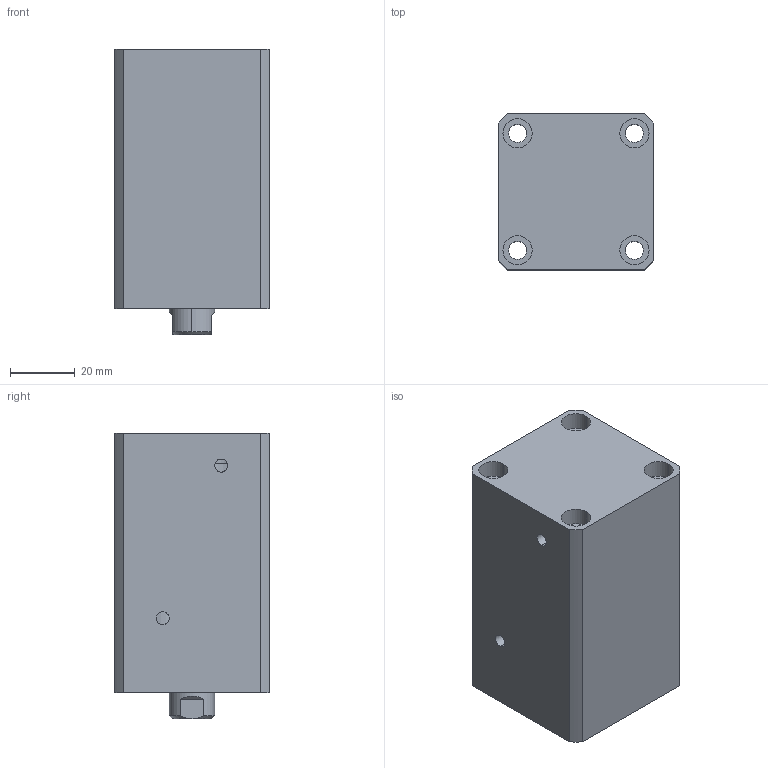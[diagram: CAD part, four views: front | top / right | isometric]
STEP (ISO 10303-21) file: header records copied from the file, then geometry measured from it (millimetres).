
FILE_DESCRIPTION (( 'STEP AP214' ), '1' );
FILE_NAME ('chtb-sdma25x35n_asm.STEP', '2018-05-22T07:05:27', ( 'Windows' ), ( 'Microsoft' ), 'SwSTEP 2.0', 'SolidWorks 2015', '' );
FILE_SCHEMA (( 'AUTOMOTIVE_DESIGN' ));
Length unit declared in the file: millimetre
Products named in the file (4): chtb-sdma25x35n_asm; CHTB-SDMA25X35NHSG; CHTB-SDMA25X35NBT; CHTB-25QG
Assembly tree (3 placements, depth 2):
  chtb-sdma25x35n_asm
    CHTB-25QG
    CHTB-SDMA25X35NBT
    CHTB-SDMA25X35NHSG
Bounding box: 48 x 48 x 88 mm (x, y, z)
Volume: 159482 mm3; surface area: 43511.7 mm2
Topology: 3 solids, 3 shells, 142 faces, 379 edges, 257 vertices
Faces by surface type: cylinder 89, plane 34, bspline 10, cone 9
Entity records: 8020 total; most frequent: CARTESIAN_POINT 4393, ORIENTED_EDGE 746, DIRECTION 661, EDGE_CURVE 373, AXIS2_PLACEMENT_3D 272, VERTEX_POINT 257, EDGE_LOOP 180, FACE_OUTER_BOUND 142
